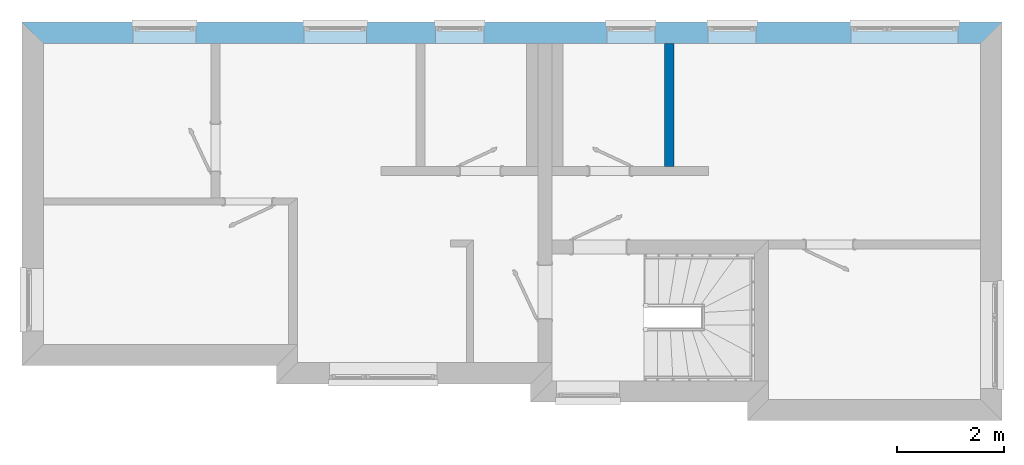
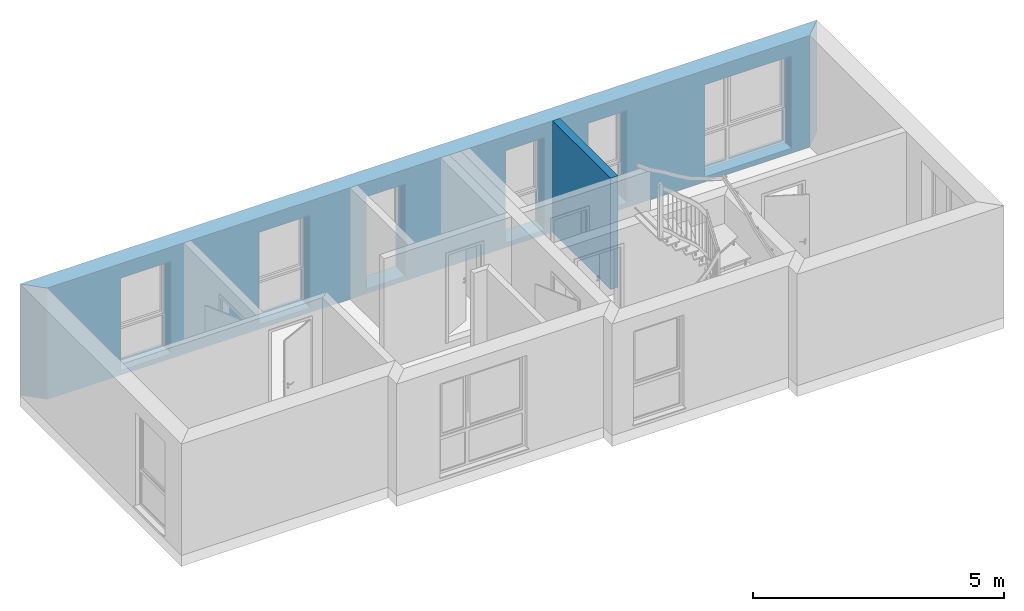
# One storey, part 15 of 16: 1 wall, 6 openings, plus 1 element that does not belong to this part.
"""IFC2X3 building model written with IfcOpenShell, lengths in millimetres."""

from ifc_helpers import new_model, si_unit, frame, origin_with_axes, place, context, project, spatial, faceted_brep, material, layer, layer_set, layer_usage, element, save


model = new_model("IFC2X3")

# Units and contexts
model_context = context("Model", 3, world=origin_with_axes())
ifc_project = project(units=[si_unit("LENGTHUNIT", "METRE", prefix="MILLI")], contexts=[model_context])

# Site, building, storey
site_placement = place(None, origin_with_axes())
site = spatial("IfcSite", under=ifc_project, at=site_placement, Name="Site", CompositionType="ELEMENT")
building_placement = place(site_placement, origin_with_axes())
building = spatial("IfcBuilding", under=site, at=building_placement, Name="?", CompositionType="ELEMENT")
storey_placement = place(building_placement, frame((0.0, 0.0, 2969.0), z_axis=(0.0, 0.0, 1.0), x_axis=(1.0, 0.0, 0.0)))
storey = spatial("IfcBuildingStorey", under=building, at=storey_placement, Name="Obergeschoß 1", CompositionType="ELEMENT", Elevation=2969.0)

# Wall, openings
ifc_material_1 = material(Name="Material_AW")
ifc_layer_1 = layer(ifc_material_1, 395.0, ventilated=False)
ifc_layer_set_1 = layer_set([ifc_layer_1], Name="MaterialLayerSet_AW")
ifc_layer_usage_1 = layer_usage(ifc_layer_set_1, "AXIS2", "NEGATIVE", 197.5)
wall_1_placement = place(storey_placement, frame((197.5, -197.5, 0.0), z_axis=(0.0, 0.0, 1.0), x_axis=(1.0, 0.0, 0.0)))
wall_1 = element("IfcWall", 1, at=wall_1_placement, inside=storey, material=ifc_layer_usage_1, Name="AW-11", context=model_context, shape_type="Brep", body=[
    faceted_brep([(17707.5008600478, -197.5, 0.0), (17707.5008600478, -197.5, 2707.0), (197.5, -197.5, 2707.0), (197.5, -197.5, 0.0), (18102.5001275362, 197.499999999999, 0.0), (18102.5001275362, 197.499999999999, 2707.0), (17707.5008600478, -197.500000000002, 2707.0), (17707.5008600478, -197.500000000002, 0.0), (-197.500233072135, 197.5, 0.0), (-197.500233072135, 197.5, 2707.0), (18102.5001275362, 197.5, 2707.0), (18102.5001275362, 197.5, 0.0), (197.5, -197.5, 0.0), (197.5, -197.5, 2707.0), (-197.500233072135, 197.5, 2707.0), (-197.500233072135, 197.5, 0.0), (197.5, -197.5, 0.0), (-197.500233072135, 197.5, 0.0), (18102.5001275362, 197.5, 0.0), (17707.5008600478, -197.5, 0.0), (-197.500233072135, 197.5, 2707.0), (197.5, -197.5, 2707.0), (17707.5008600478, -197.5, 2707.0), (18102.5001275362, 197.5, 2707.0)], [[[0, 1, 2, 3]], [[4, 5, 6, 7]], [[8, 9, 10, 11]], [[12, 13, 14, 15]], [[16, 17, 18, 19]], [[20, 21, 22, 23]]]),
])
opening_1_placement = place(wall_1_placement, frame((5067.5, 0.0, 116.0), z_axis=(0.0, 0.0, 1.0), x_axis=(1.0, 0.0, 0.0)))
element("IfcOpeningElement", 2, at=opening_1_placement, cuts=wall_1, Name="AW-11|FE11", context=model_context, shape_type="Brep", body=[
    faceted_brep([(0.0, 207.5, 0.0), (0.0, 207.5, 2244.0), (1170.0, 207.5, 2244.0), (1170.0, 207.5, 0.0), (0.0, -207.5, 0.0), (0.0, -207.5, 2244.0), (0.0, 207.5, 2244.0), (0.0, 207.5, 0.0), (1170.0, -207.5, 0.0), (0.0, -207.5, 0.0), (0.0, 207.5, 0.0), (1170.0, 207.5, 0.0), (1170.0, -207.5, 2244.0), (1170.0, -207.5, 0.0), (1170.0, 207.5, 0.0), (1170.0, 207.5, 2244.0), (0.0, -207.5, 2244.0), (1170.0, -207.5, 2244.0), (1170.0, 207.5, 2244.0), (0.0, 207.5, 2244.0), (0.0, -207.5, 0.0), (1170.0, -207.5, 0.0), (1170.0, -207.5, 2244.0), (0.0, -207.5, 2244.0)], [[[0, 1, 2, 3]], [[4, 5, 6, 7]], [[8, 9, 10, 11]], [[12, 13, 14, 15]], [[16, 17, 18, 19]], [[20, 21, 22, 23]]]),
])
opening_2_placement = place(wall_1_placement, frame((10723.5, 0.0, 116.0), z_axis=(0.0, 0.0, 1.0), x_axis=(1.0, 0.0, 0.0)))
element("IfcOpeningElement", 3, at=opening_2_placement, cuts=wall_1, Name="AW-11|FE13", context=model_context, shape_type="Brep", body=[
    faceted_brep([(0.0, 207.5, 0.0), (0.0, 207.5, 2244.0), (900.0, 207.5, 2244.0), (900.0, 207.5, 0.0), (0.0, -207.5, 0.0), (0.0, -207.5, 2244.0), (0.0, 207.5, 2244.0), (0.0, 207.5, 0.0), (900.0, -207.5, 0.0), (0.0, -207.5, 0.0), (0.0, 207.5, 0.0), (900.0, 207.5, 0.0), (900.0, -207.5, 2244.0), (900.0, -207.5, 0.0), (900.0, 207.5, 0.0), (900.0, 207.5, 2244.0), (0.0, -207.5, 2244.0), (900.0, -207.5, 2244.0), (900.0, 207.5, 2244.0), (0.0, 207.5, 2244.0), (0.0, -207.5, 0.0), (900.0, -207.5, 0.0), (900.0, -207.5, 2244.0), (0.0, -207.5, 2244.0)], [[[0, 1, 2, 3]], [[4, 5, 6, 7]], [[8, 9, 10, 11]], [[12, 13, 14, 15]], [[16, 17, 18, 19]], [[20, 21, 22, 23]]]),
])
opening_3_placement = place(wall_1_placement, frame((12613.5, 0.0, 116.0), z_axis=(0.0, 0.0, 1.0), x_axis=(1.0, 0.0, 0.0)))
element("IfcOpeningElement", 4, at=opening_3_placement, cuts=wall_1, Name="AW-11|FE14", context=model_context, shape_type="Brep", body=[
    faceted_brep([(0.0, 207.5, 0.0), (0.0, 207.5, 2244.0), (900.0, 207.5, 2244.0), (900.0, 207.5, 0.0), (0.0, -207.5, 0.0), (0.0, -207.5, 2244.0), (0.0, 207.5, 2244.0), (0.0, 207.5, 0.0), (900.0, -207.5, 0.0), (0.0, -207.5, 0.0), (0.0, 207.5, 0.0), (900.0, 207.5, 0.0), (900.0, -207.5, 2244.0), (900.0, -207.5, 0.0), (900.0, 207.5, 0.0), (900.0, 207.5, 2244.0), (0.0, -207.5, 2244.0), (900.0, -207.5, 2244.0), (900.0, 207.5, 2244.0), (0.0, 207.5, 2244.0), (0.0, -207.5, 0.0), (900.0, -207.5, 0.0), (900.0, -207.5, 2244.0), (0.0, -207.5, 2244.0)], [[[0, 1, 2, 3]], [[4, 5, 6, 7]], [[8, 9, 10, 11]], [[12, 13, 14, 15]], [[16, 17, 18, 19]], [[20, 21, 22, 23]]]),
])
opening_4_placement = place(wall_1_placement, frame((15287.5, 0.0, 116.0), z_axis=(0.0, 0.0, 1.0), x_axis=(1.0, 0.0, 0.0)))
element("IfcOpeningElement", 5, at=opening_4_placement, cuts=wall_1, Name="AW-11|FE15", context=model_context, shape_type="Brep", body=[
    faceted_brep([(0.0, 207.5, 0.0), (0.0, 207.5, 2244.0), (2000.0, 207.5, 2244.0), (2000.0, 207.5, 0.0), (0.0, -207.5, 0.0), (0.0, -207.5, 2244.0), (0.0, 207.5, 2244.0), (0.0, 207.5, 0.0), (2000.0, -207.5, 0.0), (0.0, -207.5, 0.0), (0.0, 207.5, 0.0), (2000.0, 207.5, 0.0), (2000.0, -207.5, 2244.0), (2000.0, -207.5, 0.0), (2000.0, 207.5, 0.0), (2000.0, 207.5, 2244.0), (0.0, -207.5, 2244.0), (2000.0, -207.5, 2244.0), (2000.0, 207.5, 2244.0), (0.0, 207.5, 2244.0), (0.0, -207.5, 0.0), (2000.0, -207.5, 0.0), (2000.0, -207.5, 2244.0), (0.0, -207.5, 2244.0)], [[[0, 1, 2, 3]], [[4, 5, 6, 7]], [[8, 9, 10, 11]], [[12, 13, 14, 15]], [[16, 17, 18, 19]], [[20, 21, 22, 23]]]),
])
opening_5_placement = place(wall_1_placement, frame((7527.5, 0.0, 116.0), z_axis=(0.0, 0.0, 1.0), x_axis=(1.0, 0.0, 0.0)))
element("IfcOpeningElement", 6, at=opening_5_placement, cuts=wall_1, Name="AW-11|FE12", context=model_context, shape_type="Brep", body=[
    faceted_brep([(0.0, 207.5, 0.0), (0.0, 207.5, 2244.0), (900.0, 207.5, 2244.0), (900.0, 207.5, 0.0), (0.0, -207.5, 0.0), (0.0, -207.5, 2244.0), (0.0, 207.5, 2244.0), (0.0, 207.5, 0.0), (900.0, -207.5, 0.0), (0.0, -207.5, 0.0), (0.0, 207.5, 0.0), (900.0, 207.5, 0.0), (900.0, -207.5, 2244.0), (900.0, -207.5, 0.0), (900.0, 207.5, 0.0), (900.0, 207.5, 2244.0), (0.0, -207.5, 2244.0), (900.0, -207.5, 2244.0), (900.0, 207.5, 2244.0), (0.0, 207.5, 2244.0), (0.0, -207.5, 0.0), (900.0, -207.5, 0.0), (900.0, -207.5, 2244.0), (0.0, -207.5, 2244.0)], [[[0, 1, 2, 3]], [[4, 5, 6, 7]], [[8, 9, 10, 11]], [[12, 13, 14, 15]], [[16, 17, 18, 19]], [[20, 21, 22, 23]]]),
])
opening_6_placement = place(wall_1_placement, frame((1877.5, 0.0, 116.0), z_axis=(0.0, 0.0, 1.0), x_axis=(1.0, 0.0, 0.0)))
element("IfcOpeningElement", 7, at=opening_6_placement, cuts=wall_1, Name="AW-11|FE10", context=model_context, shape_type="Brep", body=[
    faceted_brep([(0.0, 207.5, 0.0), (0.0, 207.5, 2244.0), (1170.0, 207.5, 2244.0), (1170.0, 207.5, 0.0), (0.0, -207.5, 0.0), (0.0, -207.5, 2244.0), (0.0, 207.5, 2244.0), (0.0, 207.5, 0.0), (1170.0, -207.5, 0.0), (0.0, -207.5, 0.0), (0.0, 207.5, 0.0), (1170.0, 207.5, 0.0), (1170.0, -207.5, 2244.0), (1170.0, -207.5, 0.0), (1170.0, 207.5, 0.0), (1170.0, 207.5, 2244.0), (0.0, -207.5, 2244.0), (1170.0, -207.5, 2244.0), (1170.0, 207.5, 2244.0), (0.0, 207.5, 2244.0), (0.0, -207.5, 0.0), (1170.0, -207.5, 0.0), (1170.0, -207.5, 2244.0), (0.0, -207.5, 2244.0)], [[[0, 1, 2, 3]], [[4, 5, 6, 7]], [[8, 9, 10, 11]], [[12, 13, 14, 15]], [[16, 17, 18, 19]], [[20, 21, 22, 23]]]),
])

# Wall
ifc_material_2 = material(Name="Material_IW")
ifc_layer_2 = layer(ifc_material_2, 172.0, ventilated=False)
ifc_layer_set_2 = layer_set([ifc_layer_2], Name="MaterialLayerSet_IW")
ifc_layer_usage_2 = layer_usage(ifc_layer_set_2, "AXIS2", "NEGATIVE", 86.0)
wall_2_placement = place(storey_placement, frame((12087.0, -395.0, 0.0), z_axis=(0.0, 0.0, 1.0), x_axis=(0.0, -1.0, 0.0)))
element("IfcWall", 8, at=wall_2_placement, inside=storey, material=ifc_layer_usage_2, Name="IW-29", context=model_context, shape_type="Brep", body=[
    faceted_brep([(2302.0, -86.0, 0.0), (2302.0, -86.0, 2707.0), (0.0, -86.0, 2707.0), (0.0, -86.0, 0.0), (2302.0, 86.0, 0.0), (2302.0, 86.0, 2707.0), (2302.0, -86.0, 2707.0), (2302.0, -86.0, 0.0), (0.0, 86.0, 0.0), (0.0, 86.0, 2707.0), (2302.0, 86.0, 2707.0), (2302.0, 86.0, 0.0), (0.0, -86.0, 0.0), (0.0, -86.0, 2707.0), (0.0, 86.0, 2707.0), (0.0, 86.0, 0.0), (0.0, -86.0, 0.0), (0.0, 86.0, 0.0), (2302.0, 86.0, 0.0), (2302.0, -86.0, 0.0), (0.0, -86.0, 2707.0), (2302.0, -86.0, 2707.0), (2302.0, 86.0, 2707.0), (0.0, 86.0, 2707.0)], [[[0, 1, 2, 3]], [[4, 5, 6, 7]], [[8, 9, 10, 11]], [[12, 13, 14, 15]], [[16, 17, 18, 19]], [[20, 21, 22, 23]]]),
])

save(model, "model.ifc")
